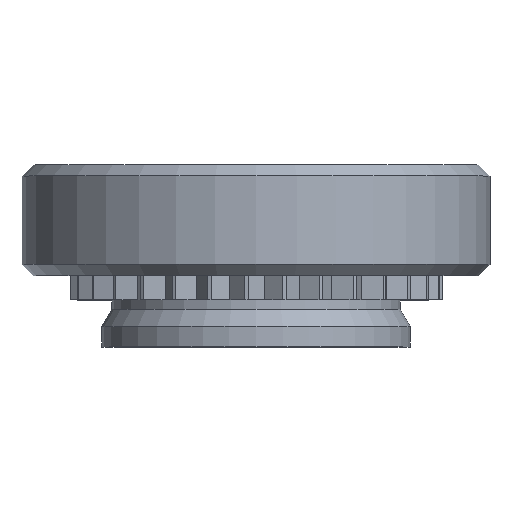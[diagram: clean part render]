
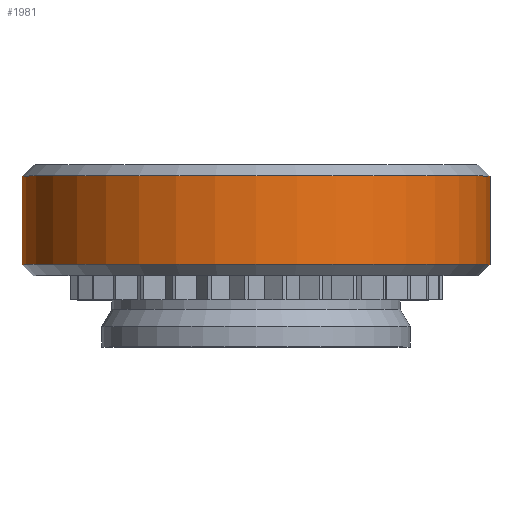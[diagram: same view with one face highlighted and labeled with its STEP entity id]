
A CAD part, top view. The second image highlights one B-rep face of the part: STEP entity #1981.
In plain terms, the highlighted cylindrical face has radius 3.175 mm (diameter 6.35 mm), a full revolution.
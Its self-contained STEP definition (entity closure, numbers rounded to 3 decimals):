
#85=CYLINDRICAL_SURFACE('',#2113,3.175);
#121=FACE_OUTER_BOUND('',#227,.T.);
#227=EDGE_LOOP('',(#1374,#1375,#1376,#1377,#1378,#1379));
#337=LINE('',#2897,#563);
#563=VECTOR('',#2305,3.175);
#789=CIRCLE('',#2111,3.175);
#790=CIRCLE('',#2112,3.175);
#791=CIRCLE('',#2114,3.175);
#792=CIRCLE('',#2115,3.175);
#866=VERTEX_POINT('',#2890);
#867=VERTEX_POINT('',#2892);
#868=VERTEX_POINT('',#2896);
#869=VERTEX_POINT('',#2898);
#1068=EDGE_CURVE('',#866,#867,#789,.T.);
#1069=EDGE_CURVE('',#867,#866,#790,.T.);
#1070=EDGE_CURVE('',#867,#868,#337,.T.);
#1071=EDGE_CURVE('',#869,#868,#791,.T.);
#1072=EDGE_CURVE('',#868,#869,#792,.T.);
#1374=ORIENTED_EDGE('',*,*,#1068,.F.);
#1375=ORIENTED_EDGE('',*,*,#1069,.F.);
#1376=ORIENTED_EDGE('',*,*,#1070,.T.);
#1377=ORIENTED_EDGE('',*,*,#1071,.F.);
#1378=ORIENTED_EDGE('',*,*,#1072,.F.);
#1379=ORIENTED_EDGE('',*,*,#1070,.F.);
#1981=ADVANCED_FACE('',(#121),#85,.T.);
#2111=AXIS2_PLACEMENT_3D('',#2893,#2299,#2300);
#2112=AXIS2_PLACEMENT_3D('',#2894,#2301,#2302);
#2113=AXIS2_PLACEMENT_3D('',#2895,#2303,#2304);
#2114=AXIS2_PLACEMENT_3D('',#2899,#2306,#2307);
#2115=AXIS2_PLACEMENT_3D('',#2900,#2308,#2309);
#2299=DIRECTION('center_axis',(0.,1.,0.));
#2300=DIRECTION('ref_axis',(1.,0.,0.));
#2301=DIRECTION('center_axis',(0.,1.,0.));
#2302=DIRECTION('ref_axis',(1.,0.,0.));
#2303=DIRECTION('center_axis',(0.,1.,0.));
#2304=DIRECTION('ref_axis',(-1.,0.,0.));
#2305=DIRECTION('',(0.,-1.,0.));
#2306=DIRECTION('center_axis',(0.,-1.,0.));
#2307=DIRECTION('ref_axis',(1.,0.,0.));
#2308=DIRECTION('center_axis',(0.,-1.,0.));
#2309=DIRECTION('ref_axis',(1.,0.,0.));
#2890=CARTESIAN_POINT('',(-3.175,2.32,0.));
#2892=CARTESIAN_POINT('',(3.175,2.32,0.));
#2893=CARTESIAN_POINT('Origin',(0.,2.32,0.));
#2894=CARTESIAN_POINT('Origin',(0.,2.32,0.));
#2895=CARTESIAN_POINT('Origin',(0.,1.72,0.));
#2896=CARTESIAN_POINT('',(3.175,1.12,0.));
#2897=CARTESIAN_POINT('',(3.175,1.72,0.));
#2898=CARTESIAN_POINT('',(-3.175,1.12,0.));
#2899=CARTESIAN_POINT('Origin',(0.,1.12,0.));
#2900=CARTESIAN_POINT('Origin',(0.,1.12,0.));
